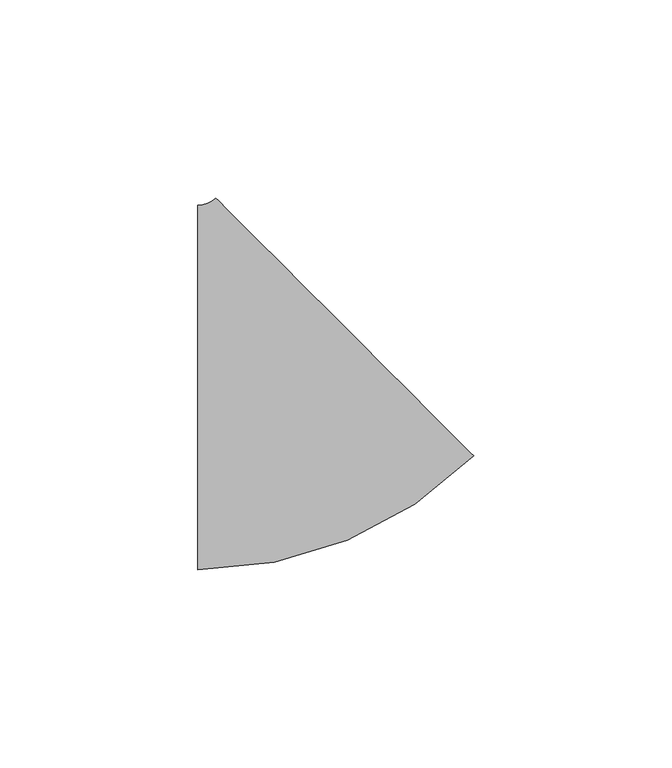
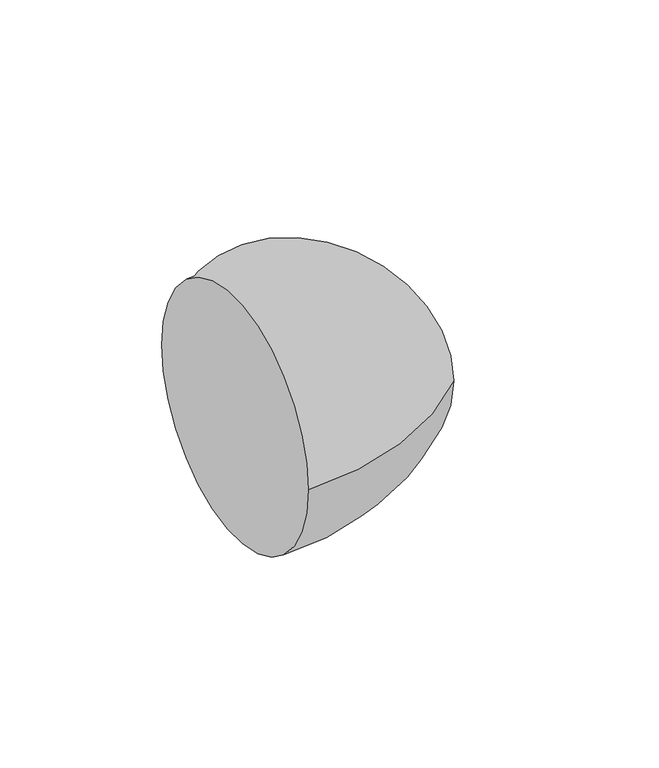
"""IFC4 building model written with IfcOpenShell, lengths in millimetres: pipe fitting geometry, M_Codo - Genérico : Estándar."""

import ifcopenshell
import ifcopenshell.guid

model = None  # the IFC model being written
_history = None  # IfcOwnerHistory: only IFC2X3 demands one
_inside = {}  # id of a spatial element -> (the spatial element, [elements in it])
_under = {}  # id of a project, library or spatial element -> (it, [spatial elements below it])
_declared = {}  # id of a project -> (the project, [libraries it declares])
_typed = {}  # id of a type object -> (the type object, [elements of that type])
_made_of = {}  # id of a material, layer set ... -> (it, [elements and type objects made of it])


def new_model(schema):
    """Start an empty IFC model of exactly this schema.

    Asked for "IFC4X3", IfcOpenShell would pick the latest addendum, in which some entities
    have other attributes; the version numbers below select the first issue.
    IFC2X3 requires an IfcOwnerHistory on every rooted entity: one is made here for all.
    """
    global model, _history
    if schema == "IFC4X3":
        model = ifcopenshell.file(schema_version=(4, 3, 0, 0))
    else:
        model = ifcopenshell.file(schema=schema)
    _inside.clear()
    _under.clear()
    _declared.clear()
    _typed.clear()
    _made_of.clear()
    _history = None
    if model.schema == "IFC2X3":
        org = make("IfcOrganization", Name="unknown")
        user = make(
            "IfcPersonAndOrganization",
            ThePerson=make("IfcPerson", FamilyName="unknown"),
            TheOrganization=org,
        )
        app = make(
            "IfcApplication",
            ApplicationDeveloper=org,
            Version="unknown",
            ApplicationFullName="unknown",
            ApplicationIdentifier="unknown",
        )
        _history = make(
            "IfcOwnerHistory",
            OwningUser=user,
            OwningApplication=app,
            ChangeAction="ADDED",
            CreationDate=0,
        )
    return model


def make(cls, **values):
    """One entity of the class cls with the attributes given. An attribute that is None is left unset."""
    return model.create_entity(
        cls, **{name: value for name, value in values.items() if value is not None}
    )


def rooted(cls, **values):
    """An entity with a GlobalId (a new one), such as an element, a storey or a relation."""
    return make(cls, GlobalId=ifcopenshell.guid.new(), OwnerHistory=_history, **values)


def si_unit(unit_type, name, prefix=None):
    """IfcSIUnit, for example si_unit("LENGTHUNIT", "METRE", prefix="MILLI")."""
    return make("IfcSIUnit", UnitType=unit_type, Prefix=prefix, Name=name)


def assignment(units):
    """IfcUnitAssignment: the units of a project."""
    return None if units is None else make("IfcUnitAssignment", Units=units)


def point(xyz):
    """IfcCartesianPoint."""
    return None if xyz is None else make("IfcCartesianPoint", Coordinates=xyz)


def direction(xyz):
    """IfcDirection."""
    return None if xyz is None else make("IfcDirection", DirectionRatios=xyz)


def frame(location, z_axis=None, x_axis=None):
    """IfcAxis2Placement3D, a coordinate frame: its origin and axes. An axis left out is left unset."""
    return make(
        "IfcAxis2Placement3D",
        Location=point(location),
        Axis=direction(z_axis),
        RefDirection=direction(x_axis),
    )


def origin():
    """The frame at (0, 0, 0) with its axes left unset."""
    return frame((0.0, 0.0, 0.0))


def place(relative_to, where):
    """IfcLocalPlacement: puts the frame where relative to a parent placement (None: the world)."""
    return make(
        "IfcLocalPlacement", PlacementRelTo=relative_to, RelativePlacement=where
    )


def context(
    kind, dimensions, precision=None, world=None, true_north=None, identifier=None
):
    """IfcGeometricRepresentationContext, for example the 3D "Model" context."""
    return make(
        "IfcGeometricRepresentationContext",
        ContextIdentifier=identifier,
        ContextType=kind,
        CoordinateSpaceDimension=dimensions,
        Precision=precision,
        WorldCoordinateSystem=world,
        TrueNorth=true_north,
    )


def project(units=None, contexts=None):
    """IfcProject with its units and contexts."""
    return rooted(
        "IfcProject",
        Name="project",
        RepresentationContexts=contexts,
        UnitsInContext=assignment(units),
    )


def spatial(cls, under=None, at=None, **own):
    """A site, building, storey or space (cls), placed at a placement, below another one or the project."""
    s = rooted(cls, ObjectPlacement=at, **own)
    if under is not None:
        _under.setdefault(under.id(), (under, []))[1].append(s)
    return s


def circle_curve(where, radius):
    """IfcCircle in the frame where."""
    return make("IfcCircle", Position=where, Radius=radius)


def ellipse_curve(where, semi_axis1, semi_axis2):
    """IfcEllipse in the frame where."""
    return make(
        "IfcEllipse", Position=where, SemiAxis1=semi_axis1, SemiAxis2=semi_axis2
    )


def trimmed(basis, trim1, trim2, sense, master):
    """IfcTrimmedCurve: the piece of a basis curve between two trims."""
    return make(
        "IfcTrimmedCurve",
        BasisCurve=basis,
        Trim1=trim1,
        Trim2=trim2,
        SenseAgreement=sense,
        MasterRepresentation=master,
    )


def shape(context_of_items, identifier, shape_type, items):
    """IfcShapeRepresentation: the items that make up one representation, for example the "Body"."""
    return make(
        "IfcShapeRepresentation",
        ContextOfItems=context_of_items,
        RepresentationIdentifier=identifier,
        RepresentationType=shape_type,
        Items=items,
    )


def source(mapping_origin, context_of_items, identifier, shape_type, items):
    """IfcRepresentationMap: a shape defined once, which mapped items show again and again."""
    return make(
        "IfcRepresentationMap",
        MappingOrigin=mapping_origin,
        MappedRepresentation=shape(context_of_items, identifier, shape_type, items),
    )


def transform(
    local_origin,
    x_axis=None,
    y_axis=None,
    z_axis=None,
    scale=None,
    scale2=None,
    scale3=None,
    uniform=True,
):
    """IfcCartesianTransformationOperator3D, or its non-uniform kind. x_axis, y_axis, z_axis: its Axis1, 2, 3."""
    if uniform:
        return make(
            "IfcCartesianTransformationOperator3D",
            Axis1=direction(x_axis),
            Axis2=direction(y_axis),
            LocalOrigin=point(local_origin),
            Scale=scale,
            Axis3=direction(z_axis),
        )
    return make(
        "IfcCartesianTransformationOperator3DnonUniform",
        Axis1=direction(x_axis),
        Axis2=direction(y_axis),
        LocalOrigin=point(local_origin),
        Scale=scale,
        Axis3=direction(z_axis),
        Scale2=scale2,
        Scale3=scale3,
    )


def mapped(mapping_source, mapping_target):
    """IfcMappedItem: shows the shape of a source again, moved by a transform."""
    return make(
        "IfcMappedItem", MappingSource=mapping_source, MappingTarget=mapping_target
    )


def made_of(thing, what):
    """Note that an element or type object is made of a material, layer set ...; save() writes the relation."""
    if what is not None:
        _made_of.setdefault(what.id(), (what, []))[1].append(thing)
    return thing


def element(
    cls,
    number,
    at=None,
    inside=None,
    cuts=None,
    type_object=None,
    material=None,
    context=None,
    identifier="Body",
    shape_type=None,
    held_by="IfcProductDefinitionShape",
    body=None,
    shapes=None,
    **own,
):
    """One element of the class cls, such as IfcWall. Its Tag is "e" and its number.

    at: its placement. inside: the storey or other place that contains it. cuts: it is an
    opening in that element (IfcRelVoidsElement). A single representation is given by context,
    identifier, shape_type and body (its items); several are given by shapes. held_by: the class
    of the entity that holds the representations. save() writes the other relations.
    """
    e = rooted(cls, Tag="e%d" % number, ObjectPlacement=at, **own)
    if body is not None:
        shapes = [shape(context, identifier, shape_type, body)]
    if shapes is not None:
        e.Representation = make(held_by, Representations=shapes)
    if inside is not None:
        _inside.setdefault(inside.id(), (inside, []))[1].append(e)
    if cuts is not None:
        rooted(
            "IfcRelVoidsElement", RelatingBuildingElement=cuts, RelatedOpeningElement=e
        )
    if type_object is not None:
        _typed.setdefault(type_object.id(), (type_object, []))[1].append(e)
    return made_of(e, material)


def aggregate(whole, parts):
    """IfcRelAggregates: a whole, such as a stair, and the parts it consists of."""
    return rooted("IfcRelAggregates", RelatingObject=whole, RelatedObjects=parts)


def save(model, path):
    """Write the relations noted so far, then the file.

    IfcRelAggregates (storeys below a building ...), IfcRelContainedInSpatialStructure (elements
    in a storey), IfcRelDefinesByType, IfcRelAssociatesMaterial and IfcRelDeclares: one each for
    every whole, place, type object, material and project.
    """
    for whole, parts in _under.values():
        aggregate(whole, parts)
    for where, things in _inside.values():
        rooted(
            "IfcRelContainedInSpatialStructure",
            RelatedElements=things,
            RelatingStructure=where,
        )
    for kind, things in _typed.values():
        rooted("IfcRelDefinesByType", RelatedObjects=things, RelatingType=kind)
    for what, things in _made_of.values():
        rooted("IfcRelAssociatesMaterial", RelatedObjects=things, RelatingMaterial=what)
    for by, libraries in _declared.values():
        rooted("IfcRelDeclares", RelatingContext=by, RelatedDefinitions=libraries)
    model.write(path)


def plane_surface(at):
    """IfcPlane: the flat surface through the origin of the frame at, square to its z axis."""
    return make("IfcPlane", Position=at)


def revolved_surface(curve, axis_point, axis_direction):
    """IfcSurfaceOfRevolution: the curve turned about the line through axis_point along axis_direction."""
    return make(
        "IfcSurfaceOfRevolution",
        SweptCurve=make("IfcArbitraryOpenProfileDef", ProfileType="CURVE", Curve=curve),
        AxisPosition=make("IfcAxis1Placement", Location=point(axis_point), Axis=direction(axis_direction)),
    )


def advanced_brep(points, edges, surfaces, faces):
    """IfcAdvancedBrep: a solid bounded by faces that lie on surfaces and meet in shared edges.

    An edge is (start, end): straight between two places in points (the first is 0);
    or (start, end, curve); or (start, end, curve, False) where it runs against its curve.
    A face is (place in surfaces, loops), or (place, loops, False) where it looks against
    its surface's normal. A loop lists edges by number (the first is 1), with a minus sign
    where the edge is run from its end to its start. The first loop is the outer one.
    """
    corners = [point(p) for p in points]
    vertices = [make("IfcVertexPoint", VertexGeometry=c) for c in corners]
    made = []
    for start, end, *more in edges:
        made.append(
            make(
                "IfcEdgeCurve",
                EdgeStart=vertices[start],
                EdgeEnd=vertices[end],
                EdgeGeometry=more[0] if more else make("IfcPolyline", Points=[corners[start], corners[end]]),
                SameSense=more[1] if len(more) > 1 else True,
            )
        )
    hull = []
    for where, loops, *sense in faces:
        bounds = []
        for j, loop in enumerate(loops):
            ring = [make("IfcOrientedEdge", EdgeElement=made[abs(k) - 1], Orientation=k > 0) for k in loop]
            bounds.append(
                make(
                    "IfcFaceOuterBound" if j == 0 else "IfcFaceBound",
                    Bound=make("IfcEdgeLoop", EdgeList=ring),
                    Orientation=True,
                )
            )
        hull.append(make("IfcAdvancedFace", Bounds=bounds, FaceSurface=surfaces[where], SameSense=sense[0] if sense else True))
    return make("IfcAdvancedBrep", Outer=make("IfcClosedShell", CfsFaces=hull))


def pipe_fitting_d4e63a53(model_context):
    return source(origin(), model_context, "Body", "AdvancedBrep", [
        advanced_brep(
        [(-21.6975187, -46.0375, 0.0), (-21.6975187, 46.0375, 0.0), (47.8947163, -17.2142346, 0.0), (-17.207697, 47.8970655, 0.0)],
        [
            (0, 1, circle_curve(frame((-21.6975187, 0.0, 0.0), z_axis=(-1.0, 0.0, 0.0), x_axis=(0.0, 1.0, 0.0)), 46.0375)),
            (1, 0, circle_curve(frame((-21.6975187, 0.0, 0.0), z_axis=(-1.0, 0.0, 0.0), x_axis=(0.0, 1.0, 0.0)), 46.0375)),
            (2, 3, circle_curve(frame((15.3435096, 15.3414155, 0.0), z_axis=(0.7071550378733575, 0.7070585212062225, 0.0), x_axis=(-0.7070585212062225, 0.7071550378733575, 0.0)), 46.0375)),
            (3, 2, circle_curve(frame((15.3435096, 15.3414155, 0.0), z_axis=(0.7071550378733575, 0.7070585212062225, 0.0), x_axis=(-0.7070585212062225, 0.7071550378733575, 0.0)), 46.0375)),
            (3, 1, circle_curve(frame((-21.6975187, 52.3875, 0.0), z_axis=(0.0, 0.0, -1.0), x_axis=(0.0, -1.0, 0.0)), 6.35)),
            (0, 2, circle_curve(frame((-21.6975187, 52.3875, 0.0), z_axis=(0.0, 0.0, 1.0), x_axis=(0.0, -1.0, 0.0)), 98.425)),
        ],
        [
            plane_surface(frame((-21.6975187, 0.0, 0.0), z_axis=(-1.0, 0.0, 0.0), x_axis=(0.0, 0.0, 1.0))),
            plane_surface(frame((15.3435096, 15.3414155, 0.0), z_axis=(0.7071550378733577, 0.7070585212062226, 0.0), x_axis=(0.0, 0.0, 1.0))),
            revolved_surface(trimmed(ellipse_curve(frame((-21.6975187, 0.0, 0.0), z_axis=(-1.0, 0.0, 0.0), x_axis=(0.0, 1.0, 0.0)), 46.0375, 46.0375), [point((-21.6975187, -46.0375, 0.0))], [point((-21.6975187, 46.0375, 0.0))], True, "CARTESIAN"), (-21.6975187, 52.3875, 0.0), (0.0, 0.0, 1.0)),
            revolved_surface(trimmed(ellipse_curve(frame((-21.6975187, 0.0, 0.0), z_axis=(-1.0, 0.0, 0.0), x_axis=(0.0, 1.0, 0.0)), 46.0375, 46.0375), [point((-21.6975187, 46.0375, 0.0))], [point((-21.6975187, -46.0375, 0.0))], True, "CARTESIAN"), (-21.6975187, 52.3875, 0.0), (0.0, 0.0, 1.0)),
        ],
        [
            (0, [[1, 2]]),
            (1, [[3, 4]]),
            (2, [[5, -1, 6, -4]]),
            (3, [[-6, -2, -5, -3]]),
        ],
    ),
    ])


if __name__ == "__main__":
    model = new_model("IFC4")
    model_context = context("Model", 3, world=origin())
    ifc_project = project(units=[si_unit("LENGTHUNIT", "METRE", prefix="MILLI")], contexts=[model_context])
    site = spatial("IfcSite", under=ifc_project)
    building = spatial("IfcBuilding", under=site)
    placement = place(None, origin())
    pipe_fitting_shape = pipe_fitting_d4e63a53(model_context)
    element("IfcPipeFitting", 1, ObjectType="M_Codo - Genérico : Estándar", at=placement, inside=building, context=model_context, shape_type="MappedRepresentation", body=[
        mapped(pipe_fitting_shape, transform((0.0, 0.0, 0.0), x_axis=(1.0, 0.0, 0.0), y_axis=(0.0, 1.0, 0.0), z_axis=(0.0, 0.0, 1.0))),
    ])
    save(model, "model.ifc")
